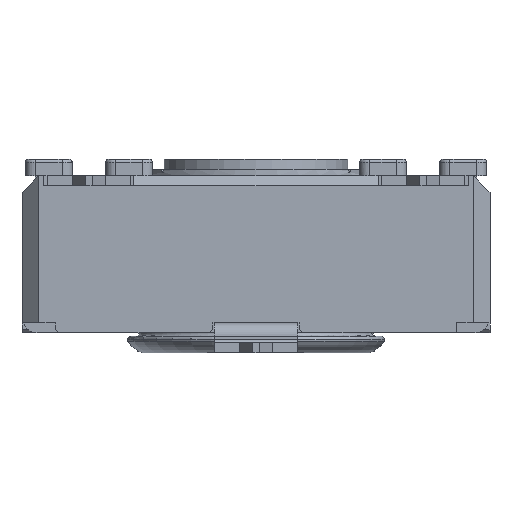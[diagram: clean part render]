
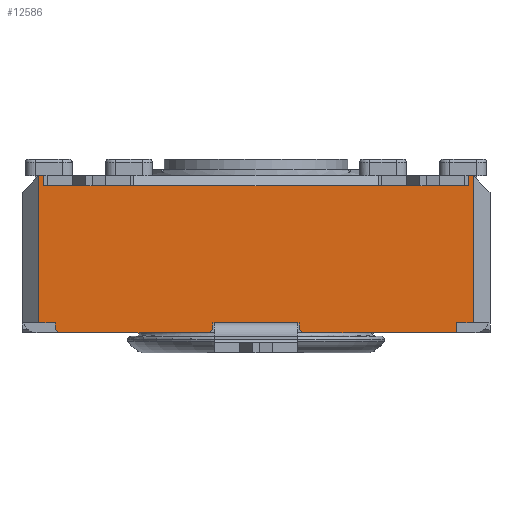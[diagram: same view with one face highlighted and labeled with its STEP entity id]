
A CAD part, front view. The second image highlights one B-rep face of the part: STEP entity #12586.
In plain terms, the highlighted planar face has unit normal (0, -1, 0).
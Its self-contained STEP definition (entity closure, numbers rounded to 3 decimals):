
#655=FACE_OUTER_BOUND('',#1325,.T.);
#1325=EDGE_LOOP('',(#8374,#8375,#8376,#8377,#8378,#8379,#8380,#8381,#8382,
#8383,#8384,#8385,#8386,#8387,#8388,#8389,#8390,#8391,#8392,#8393,#8394,
#8395,#8396,#8397,#8398,#8399,#8400));
#2054=LINE('',#17996,#3544);
#2066=LINE('',#18028,#3556);
#2071=LINE('',#18038,#3561);
#2129=LINE('',#18157,#3619);
#2134=LINE('',#18166,#3624);
#2160=LINE('',#18230,#3650);
#2161=LINE('',#18232,#3651);
#2162=LINE('',#18234,#3652);
#2163=LINE('',#18235,#3653);
#2164=LINE('',#18237,#3654);
#2165=LINE('',#18239,#3655);
#2166=LINE('',#18241,#3656);
#2167=LINE('',#18243,#3657);
#2168=LINE('',#18244,#3658);
#2169=LINE('',#18246,#3659);
#2170=LINE('',#18248,#3660);
#2171=LINE('',#18250,#3661);
#2172=LINE('',#18252,#3662);
#2173=LINE('',#18254,#3663);
#2174=LINE('',#18256,#3664);
#2175=LINE('',#18258,#3665);
#2176=LINE('',#18260,#3666);
#2177=LINE('',#18262,#3667);
#2178=LINE('',#18263,#3668);
#2179=LINE('',#18265,#3669);
#2180=LINE('',#18267,#3670);
#2181=LINE('',#18268,#3671);
#3544=VECTOR('',#14436,10.);
#3556=VECTOR('',#14472,10.);
#3561=VECTOR('',#14477,10.);
#3619=VECTOR('',#14549,10.);
#3624=VECTOR('',#14558,10.);
#3650=VECTOR('',#14606,10.);
#3651=VECTOR('',#14607,10.);
#3652=VECTOR('',#14608,10.);
#3653=VECTOR('',#14609,10.);
#3654=VECTOR('',#14610,10.);
#3655=VECTOR('',#14611,10.);
#3656=VECTOR('',#14612,10.);
#3657=VECTOR('',#14613,10.);
#3658=VECTOR('',#14614,10.);
#3659=VECTOR('',#14615,10.);
#3660=VECTOR('',#14616,10.);
#3661=VECTOR('',#14617,10.);
#3662=VECTOR('',#14618,10.);
#3663=VECTOR('',#14619,10.);
#3664=VECTOR('',#14620,10.);
#3665=VECTOR('',#14621,10.);
#3666=VECTOR('',#14622,10.);
#3667=VECTOR('',#14623,10.);
#3668=VECTOR('',#14624,10.);
#3669=VECTOR('',#14625,10.);
#3670=VECTOR('',#14626,10.);
#3671=VECTOR('',#14627,10.);
#5013=VERTEX_POINT('',#17975);
#5021=VERTEX_POINT('',#17995);
#5029=VERTEX_POINT('',#18027);
#5033=VERTEX_POINT('',#18035);
#5034=VERTEX_POINT('',#18037);
#5087=VERTEX_POINT('',#18154);
#5088=VERTEX_POINT('',#18156);
#5089=VERTEX_POINT('',#18163);
#5090=VERTEX_POINT('',#18165);
#5117=VERTEX_POINT('',#18229);
#5118=VERTEX_POINT('',#18231);
#5119=VERTEX_POINT('',#18233);
#5120=VERTEX_POINT('',#18236);
#5121=VERTEX_POINT('',#18238);
#5122=VERTEX_POINT('',#18240);
#5123=VERTEX_POINT('',#18242);
#5124=VERTEX_POINT('',#18245);
#5125=VERTEX_POINT('',#18247);
#5126=VERTEX_POINT('',#18249);
#5127=VERTEX_POINT('',#18251);
#5128=VERTEX_POINT('',#18253);
#5129=VERTEX_POINT('',#18255);
#5130=VERTEX_POINT('',#18257);
#5131=VERTEX_POINT('',#18259);
#5132=VERTEX_POINT('',#18261);
#5133=VERTEX_POINT('',#18264);
#5134=VERTEX_POINT('',#18266);
#6266=EDGE_CURVE('',#5013,#5021,#2054,.T.);
#6282=EDGE_CURVE('',#5029,#5013,#2066,.T.);
#6287=EDGE_CURVE('',#5034,#5033,#2071,.T.);
#6347=EDGE_CURVE('',#5088,#5087,#2129,.T.);
#6352=EDGE_CURVE('',#5090,#5089,#2134,.T.);
#6384=EDGE_CURVE('',#5087,#5117,#2160,.T.);
#6385=EDGE_CURVE('',#5117,#5118,#2161,.T.);
#6386=EDGE_CURVE('',#5118,#5119,#2162,.T.);
#6387=EDGE_CURVE('',#5034,#5119,#2163,.T.);
#6388=EDGE_CURVE('',#5033,#5120,#2164,.T.);
#6389=EDGE_CURVE('',#5121,#5120,#2165,.T.);
#6390=EDGE_CURVE('',#5121,#5122,#2166,.T.);
#6391=EDGE_CURVE('',#5123,#5122,#2167,.T.);
#6392=EDGE_CURVE('',#5029,#5123,#2168,.T.);
#6393=EDGE_CURVE('',#5021,#5124,#2169,.T.);
#6394=EDGE_CURVE('',#5124,#5125,#2170,.T.);
#6395=EDGE_CURVE('',#5126,#5125,#2171,.T.);
#6396=EDGE_CURVE('',#5126,#5127,#2172,.T.);
#6397=EDGE_CURVE('',#5127,#5128,#2173,.T.);
#6398=EDGE_CURVE('',#5128,#5129,#2174,.T.);
#6399=EDGE_CURVE('',#5130,#5129,#2175,.T.);
#6400=EDGE_CURVE('',#5130,#5131,#2176,.T.);
#6401=EDGE_CURVE('',#5131,#5132,#2177,.T.);
#6402=EDGE_CURVE('',#5132,#5090,#2178,.T.);
#6403=EDGE_CURVE('',#5089,#5133,#2179,.T.);
#6404=EDGE_CURVE('',#5134,#5133,#2180,.T.);
#6405=EDGE_CURVE('',#5134,#5088,#2181,.T.);
#8374=ORIENTED_EDGE('',*,*,#6347,.T.);
#8375=ORIENTED_EDGE('',*,*,#6384,.T.);
#8376=ORIENTED_EDGE('',*,*,#6385,.T.);
#8377=ORIENTED_EDGE('',*,*,#6386,.T.);
#8378=ORIENTED_EDGE('',*,*,#6387,.F.);
#8379=ORIENTED_EDGE('',*,*,#6287,.T.);
#8380=ORIENTED_EDGE('',*,*,#6388,.T.);
#8381=ORIENTED_EDGE('',*,*,#6389,.F.);
#8382=ORIENTED_EDGE('',*,*,#6390,.T.);
#8383=ORIENTED_EDGE('',*,*,#6391,.F.);
#8384=ORIENTED_EDGE('',*,*,#6392,.F.);
#8385=ORIENTED_EDGE('',*,*,#6282,.T.);
#8386=ORIENTED_EDGE('',*,*,#6266,.T.);
#8387=ORIENTED_EDGE('',*,*,#6393,.T.);
#8388=ORIENTED_EDGE('',*,*,#6394,.T.);
#8389=ORIENTED_EDGE('',*,*,#6395,.F.);
#8390=ORIENTED_EDGE('',*,*,#6396,.T.);
#8391=ORIENTED_EDGE('',*,*,#6397,.T.);
#8392=ORIENTED_EDGE('',*,*,#6398,.T.);
#8393=ORIENTED_EDGE('',*,*,#6399,.F.);
#8394=ORIENTED_EDGE('',*,*,#6400,.T.);
#8395=ORIENTED_EDGE('',*,*,#6401,.T.);
#8396=ORIENTED_EDGE('',*,*,#6402,.T.);
#8397=ORIENTED_EDGE('',*,*,#6352,.T.);
#8398=ORIENTED_EDGE('',*,*,#6403,.T.);
#8399=ORIENTED_EDGE('',*,*,#6404,.F.);
#8400=ORIENTED_EDGE('',*,*,#6405,.T.);
#11869=PLANE('',#13302);
#12586=ADVANCED_FACE('',(#655),#11869,.T.);
#13302=AXIS2_PLACEMENT_3D('',#18228,#14604,#14605);
#14436=DIRECTION('',(1.,0.,0.));
#14472=DIRECTION('',(1.,0.,0.));
#14477=DIRECTION('',(1.,0.,0.));
#14549=DIRECTION('',(-1.,0.,0.));
#14558=DIRECTION('',(-1.,0.,0.));
#14604=DIRECTION('center_axis',(0.,-1.,0.));
#14605=DIRECTION('ref_axis',(0.,0.,-1.));
#14606=DIRECTION('',(-1.,0.,0.));
#14607=DIRECTION('',(0.,0.,1.));
#14608=DIRECTION('',(-1.,0.,0.));
#14609=DIRECTION('',(0.,0.,1.));
#14610=DIRECTION('',(0.,0.,-1.));
#14611=DIRECTION('',(-0.707,0.,0.707));
#14612=DIRECTION('',(1.,0.,0.));
#14613=DIRECTION('',(-0.707,0.,-0.707));
#14614=DIRECTION('',(0.,0.,-1.));
#14615=DIRECTION('',(1.,0.,0.));
#14616=DIRECTION('',(0.,0.,-1.));
#14617=DIRECTION('',(-0.707,0.,0.707));
#14618=DIRECTION('',(1.,0.,0.));
#14619=DIRECTION('',(0.,0.,1.));
#14620=DIRECTION('',(1.,0.,0.));
#14621=DIRECTION('',(0.,0.,-1.));
#14622=DIRECTION('',(-1.,0.,0.));
#14623=DIRECTION('',(0.,0.,-1.));
#14624=DIRECTION('',(-1.,0.,0.));
#14625=DIRECTION('',(-1.,0.,0.));
#14626=DIRECTION('',(1.,0.,0.));
#14627=DIRECTION('',(-1.,0.,0.));
#17975=CARTESIAN_POINT('',(-8.717,-9.898,0.));
#17995=CARTESIAN_POINT('',(-6.217,-9.898,0.));
#17996=CARTESIAN_POINT('',(-14.467,-9.898,0.));
#18027=CARTESIAN_POINT('',(-8.767,-9.898,0.));
#18028=CARTESIAN_POINT('',(-14.467,-9.898,0.));
#18035=CARTESIAN_POINT('',(-13.467,-9.898,0.));
#18037=CARTESIAN_POINT('',(-13.967,-9.898,0.));
#18038=CARTESIAN_POINT('',(-7.245,-9.898,0.));
#18154=CARTESIAN_POINT('',(-13.717,-9.898,4.1));
#18156=CARTESIAN_POINT('',(-11.217,-9.898,4.1));
#18157=CARTESIAN_POINT('',(-6.467,-9.898,4.1));
#18163=CARTESIAN_POINT('',(-3.717,-9.898,4.1));
#18165=CARTESIAN_POINT('',(-1.217,-9.898,4.1));
#18166=CARTESIAN_POINT('',(-1.467,-9.898,4.1));
#18228=CARTESIAN_POINT('Origin',(-0.467,-9.898,0.));
#18229=CARTESIAN_POINT('',(-13.817,-9.898,4.1));
#18230=CARTESIAN_POINT('',(-3.944,-9.898,4.1));
#18231=CARTESIAN_POINT('',(-13.817,-9.898,4.4));
#18232=CARTESIAN_POINT('',(-13.817,-9.898,2.2));
#18233=CARTESIAN_POINT('',(-13.967,-9.898,4.4));
#18234=CARTESIAN_POINT('',(-14.467,-9.898,4.4));
#18235=CARTESIAN_POINT('',(-13.967,-9.898,0.));
#18236=CARTESIAN_POINT('',(-13.467,-9.898,-0.2));
#18237=CARTESIAN_POINT('',(-13.467,-9.898,-0.15));
#18238=CARTESIAN_POINT('',(-13.367,-9.898,-0.3));
#18239=CARTESIAN_POINT('',(-10.242,-9.898,-3.425));
#18240=CARTESIAN_POINT('',(-8.867,-9.898,-0.3));
#18241=CARTESIAN_POINT('',(-0.467,-9.898,-0.3));
#18242=CARTESIAN_POINT('',(-8.767,-9.898,-0.2));
#18243=CARTESIAN_POINT('',(-6.667,-9.898,1.9));
#18244=CARTESIAN_POINT('',(-8.767,-9.898,0.));
#18245=CARTESIAN_POINT('',(-6.167,-9.898,0.));
#18246=CARTESIAN_POINT('',(-14.467,-9.898,0.));
#18247=CARTESIAN_POINT('',(-6.167,-9.898,-0.2));
#18248=CARTESIAN_POINT('',(-6.167,-9.898,0.));
#18249=CARTESIAN_POINT('',(-6.067,-9.898,-0.3));
#18250=CARTESIAN_POINT('',(-4.767,-9.898,-1.6));
#18251=CARTESIAN_POINT('',(-1.467,-9.898,-0.3));
#18252=CARTESIAN_POINT('',(-0.467,-9.898,-0.3));
#18253=CARTESIAN_POINT('',(-1.467,-9.898,0.));
#18254=CARTESIAN_POINT('',(-1.467,-9.898,-0.15));
#18255=CARTESIAN_POINT('',(-0.967,-9.898,0.));
#18256=CARTESIAN_POINT('',(-0.646,-9.898,0.));
#18257=CARTESIAN_POINT('',(-0.967,-9.898,4.4));
#18258=CARTESIAN_POINT('',(-0.967,-9.898,0.));
#18259=CARTESIAN_POINT('',(-1.117,-9.898,4.4));
#18260=CARTESIAN_POINT('',(-14.467,-9.898,4.4));
#18261=CARTESIAN_POINT('',(-1.117,-9.898,4.1));
#18262=CARTESIAN_POINT('',(-1.117,-9.898,2.2));
#18263=CARTESIAN_POINT('',(-1.862,-9.898,4.1));
#18264=CARTESIAN_POINT('',(-3.817,-9.898,4.1));
#18265=CARTESIAN_POINT('',(-1.862,-9.898,4.1));
#18266=CARTESIAN_POINT('',(-11.117,-9.898,4.1));
#18267=CARTESIAN_POINT('',(-3.967,-9.898,4.1));
#18268=CARTESIAN_POINT('',(-3.944,-9.898,4.1));
